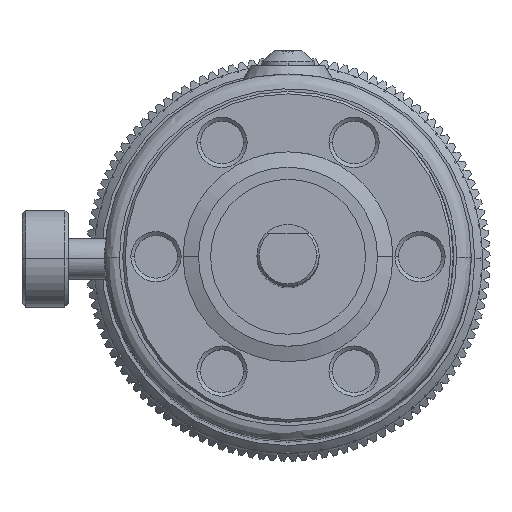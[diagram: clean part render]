
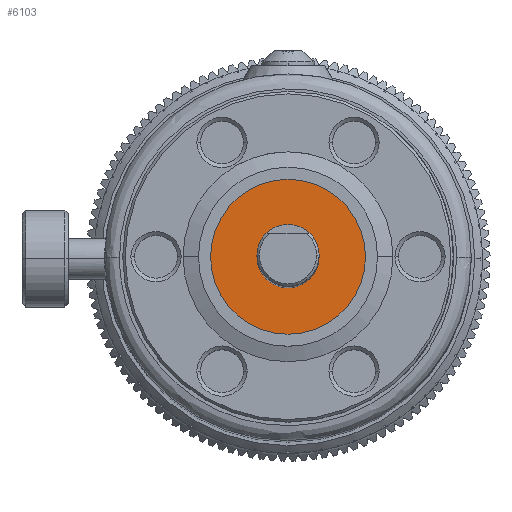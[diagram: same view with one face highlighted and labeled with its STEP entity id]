
A CAD part, top view. The second image highlights one B-rep face of the part: STEP entity #6103.
In plain terms, the highlighted planar face has unit normal (0, 0, 1).
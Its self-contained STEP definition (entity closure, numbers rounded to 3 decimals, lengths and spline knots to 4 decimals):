
#3037 = CIRCLE ( 'NONE', #11926, 0.3175 ) ;
#3039 = CIRCLE ( 'NONE', #11924, 0.7912 ) ;
#3203 = CIRCLE ( 'NONE', #12010, 0.3175 ) ;
#3222 = CIRCLE ( 'NONE', #12012, 0.7912 ) ;
#6103 = ADVANCED_FACE ( 'NONE', ( #51034, #31046 ), #30113, .T. ) ;
#11924 = AXIS2_PLACEMENT_3D ( 'NONE', #36364, #36365, #36366 ) ;
#11926 = AXIS2_PLACEMENT_3D ( 'NONE', #36369, #36370, #36371 ) ;
#12010 = AXIS2_PLACEMENT_3D ( 'NONE', #37079, #37080, #37081 ) ;
#12012 = AXIS2_PLACEMENT_3D ( 'NONE', #37090, #37091, #37092 ) ;
#18085 = AXIS2_PLACEMENT_3D ( 'NONE', #30250, #30146, #30197 ) ;
#19993 = EDGE_LOOP ( 'NONE', ( #30514, #30515 ) ) ;
#20283 = EDGE_LOOP ( 'NONE', ( #30516, #30517 ) ) ;
#23439 = CARTESIAN_POINT ( 'NONE',  ( 0., -0.3175, -0.1499 ) ) ;
#23440 = CARTESIAN_POINT ( 'NONE',  ( 0., 0.3175, -0.1499 ) ) ;
#23618 = CARTESIAN_POINT ( 'NONE',  ( 0., -0.7912, -0.1499 ) ) ;
#23646 = CARTESIAN_POINT ( 'NONE',  ( 0., 0.7912, -0.1499 ) ) ;
#27970 = EDGE_CURVE ( 'NONE', #37698, #37683, #3039, .T. ) ;
#27971 = EDGE_CURVE ( 'NONE', #32759, #32758, #3037, .T. ) ;
#28153 = EDGE_CURVE ( 'NONE', #32758, #32759, #3203, .T. ) ;
#28157 = EDGE_CURVE ( 'NONE', #37683, #37698, #3222, .T. ) ;
#30113 = PLANE ( 'NONE',  #18085 ) ;
#30146 = DIRECTION ( 'NONE',  ( 0., 0., 1. ) ) ;
#30197 = DIRECTION ( 'NONE',  ( 0., -1., 0. ) ) ;
#30250 = CARTESIAN_POINT ( 'NONE',  ( 0., 0.7633, -0.1499 ) ) ;
#30514 = ORIENTED_EDGE ( 'NONE', *, *, #28157, .T. ) ;
#30515 = ORIENTED_EDGE ( 'NONE', *, *, #27970, .T. ) ;
#30516 = ORIENTED_EDGE ( 'NONE', *, *, #28153, .T. ) ;
#30517 = ORIENTED_EDGE ( 'NONE', *, *, #27971, .T. ) ;
#31046 = FACE_BOUND ( 'NONE', #20283, .T. ) ;
#32758 = VERTEX_POINT ( 'NONE', #23439 ) ;
#32759 = VERTEX_POINT ( 'NONE', #23440 ) ;
#36364 = CARTESIAN_POINT ( 'NONE',  ( 0., 0., -0.1499 ) ) ;
#36365 = DIRECTION ( 'NONE',  ( 0., 0., 1. ) ) ;
#36366 = DIRECTION ( 'NONE',  ( 0., -1., 0. ) ) ;
#36369 = CARTESIAN_POINT ( 'NONE',  ( 0., 0., -0.1499 ) ) ;
#36370 = DIRECTION ( 'NONE',  ( 0., 0., -1. ) ) ;
#36371 = DIRECTION ( 'NONE',  ( 0., -1., 0. ) ) ;
#37079 = CARTESIAN_POINT ( 'NONE',  ( 0., 0., -0.1499 ) ) ;
#37080 = DIRECTION ( 'NONE',  ( 0., 0., -1. ) ) ;
#37081 = DIRECTION ( 'NONE',  ( 0., -1., 0. ) ) ;
#37090 = CARTESIAN_POINT ( 'NONE',  ( 0., 0., -0.1499 ) ) ;
#37091 = DIRECTION ( 'NONE',  ( 0., 0., 1. ) ) ;
#37092 = DIRECTION ( 'NONE',  ( 0., -1., 0. ) ) ;
#37683 = VERTEX_POINT ( 'NONE', #23618 ) ;
#37698 = VERTEX_POINT ( 'NONE', #23646 ) ;
#51034 = FACE_OUTER_BOUND ( 'NONE', #19993, .T. ) ;
